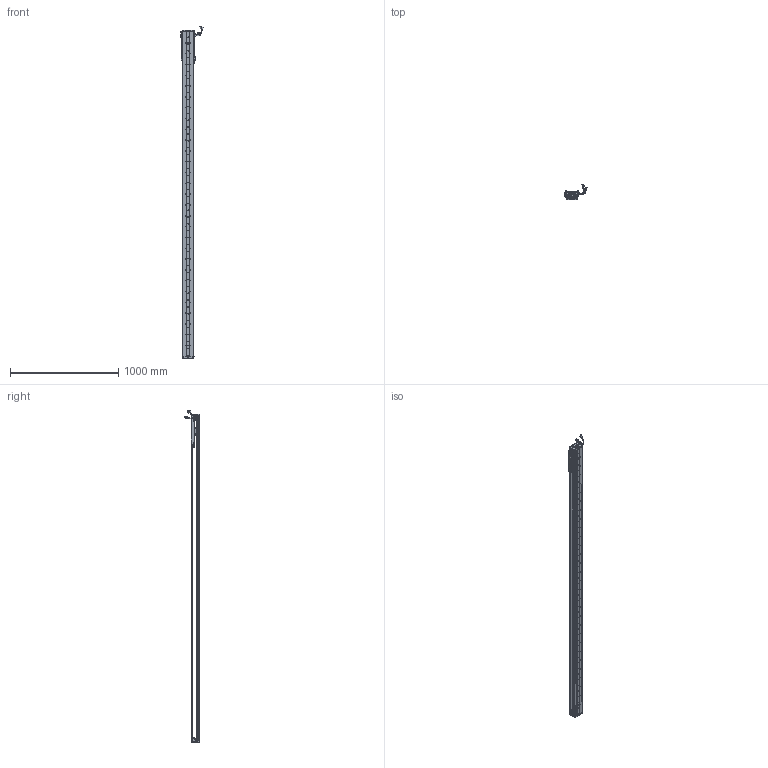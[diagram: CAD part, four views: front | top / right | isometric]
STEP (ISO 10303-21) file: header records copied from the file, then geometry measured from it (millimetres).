
FILE_DESCRIPTION (( 'STEP AP203' ), '1' );
FILE_NAME ('Z3-RY100D-1-L500-B-K.SLDASM_2700.step', '2021-05-17T02:52:48', ( '盈信电脑' ), ( '东莞市道滘镇水果街19号' ), 'SwSTEP 2.0', 'SolidWorks 2016', '' );
FILE_SCHEMA (( 'CONFIG_CONTROL_DESIGN' ));
Length unit declared in the file: millimetre
Products named in the file (36): SEAL; 140雄赽晤鎢ん堤盄; SCREW-M1.6; Z-RY100D詩湍狟揤裔; SCALE-Part-2; COVER; Z3-RY100铝滑块（21款）; SCREW-M1.6-1; 100-Z-臏賑輸盄裔(21遴); Z-RY100D詩湍奻揤裔; Z-RY100D覜茼んえ; SEAL-Part-1; SCREW-M1.6-2; Z-100詩湍傷裔啣; Z3-RY100D-500-倰第菁釱_2700; SHIELDPLATE; HARNESS-Part-2; SCREW-M1.7-1; Z3-RY100D-1-L500-B-K.SLDASM_2700; 140蚥薯蝶輸; LABEL; HOLDER0; SCREW-M1.7; SCALE; 榋妏寠巭燃_暯_M2_2; SCREW-M1.6-3; LABEL-Part-1; 080黍杅芛假蚾釱21遴; SCALE-Part-1; Z3-RY100-L500詩湍90mm遵_2700; PSLH080_PSLF2; 覜茼ん672; HARNESS; HARNESS-Part-1; COVER-Part-1; PBU_SHEET
Assembly tree (43 placements, depth 4):
  Z3-RY100D-1-L500-B-K.SLDASM_2700
    Z3-RY100D-500-倰第菁釱_2700
    Z3-RY100铝滑块（21款）
    PSLH080_PSLF2
      SCALE
        SCALE-Part-1
        SCALE-Part-2
      HARNESS
        HARNESS-Part-1
        HARNESS-Part-2
      LABEL
        LABEL-Part-1
      COVER
        COVER-Part-1
      SEAL
        SEAL-Part-1
      榋妏寠巭燃_暯_M2_2
      SHIELDPLATE
      SCREW-M1.7
      SCREW-M1.7-1
      PBU_SHEET
      SCREW-M1.6
      SCREW-M1.6-1
      SCREW-M1.6-2
      SCREW-M1.6-3
      HOLDER0
    080黍杅芛假蚾釱21遴
    Z-100詩湍傷裔啣  x2
    140蚥薯蝶輸  x2
    覜茼ん672  x3
    Z-RY100D覜茼んえ  x3
    100-Z-臏賑輸盄裔(21遴)
    140雄赽晤鎢ん堤盄
    Z3-RY100-L500詩湍90mm遵_2700
    Z-RY100D詩湍狟揤裔  x2
    Z-RY100D詩湍奻揤裔  x2
Bounding box: 205.79 x 136.11 x 3070.43 mm (x, y, z)
Volume: 5537790.6 mm3; surface area: 2186978.3 mm2
Topology: 38 solids, 38 shells, 3097 faces, 8509 edges, 5440 vertices
Faces by surface type: cylinder 1554, plane 1195, cone 226, torus 69, bspline 53
Entity records: 90631 total; most frequent: CARTESIAN_POINT 18949, DIRECTION 14663, ORIENTED_EDGE 13898, EDGE_CURVE 6949, AXIS2_PLACEMENT_3D 5534, VERTEX_POINT 4508, LINE 3595, VECTOR 3595
